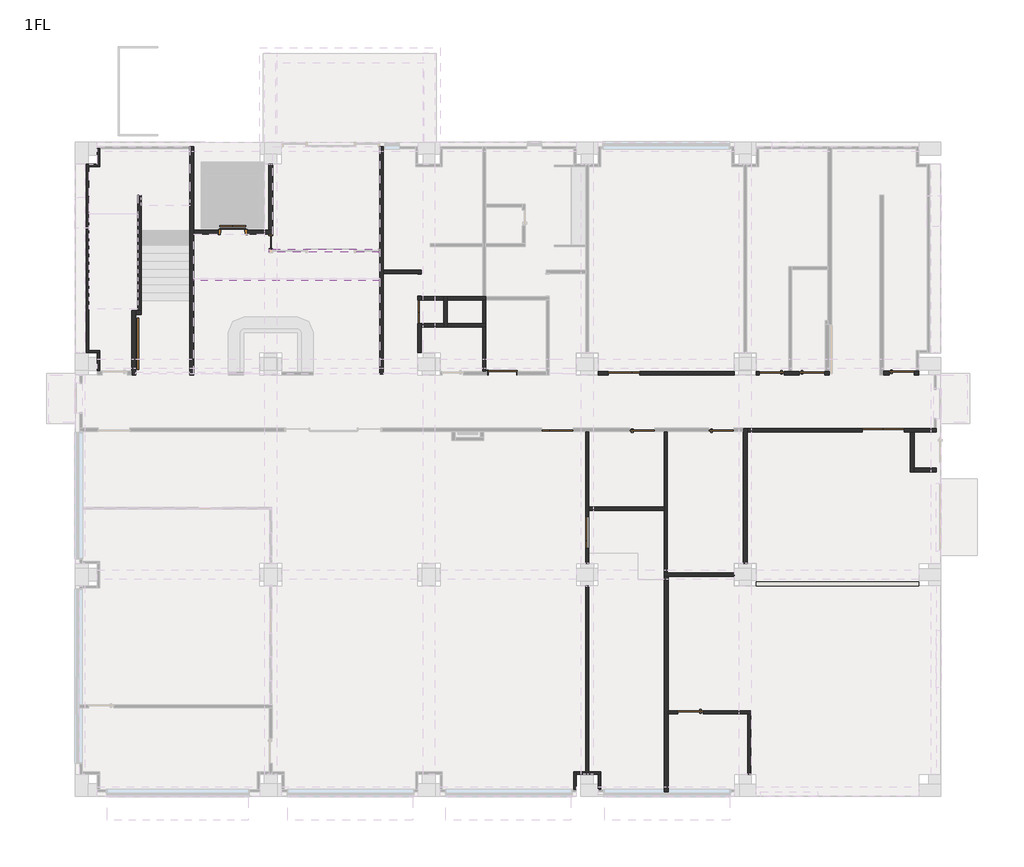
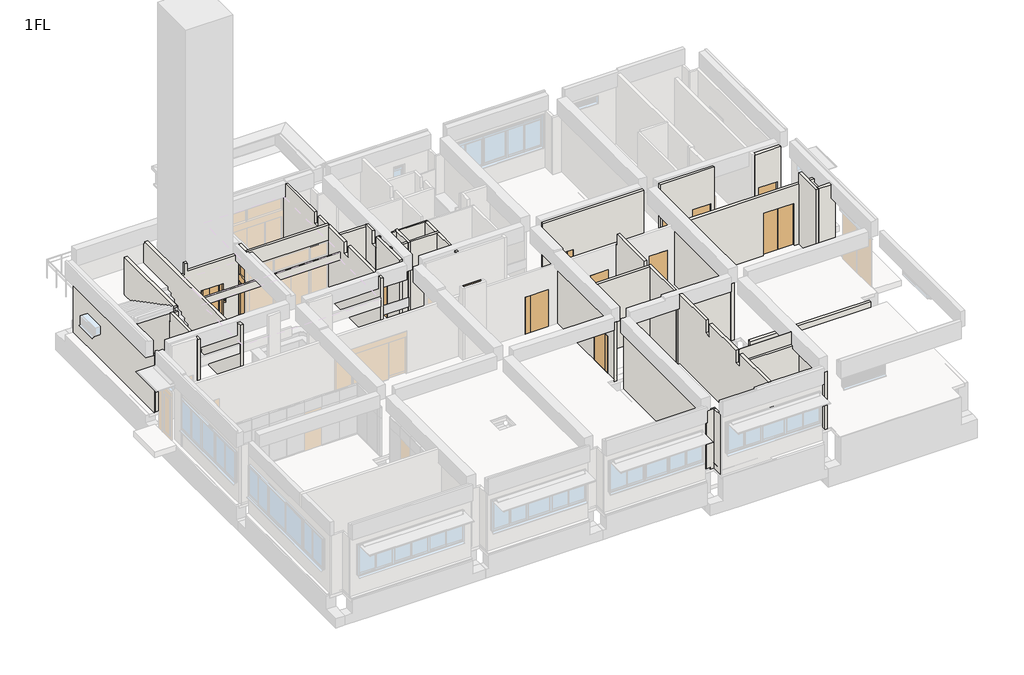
# One storey, part 2 of 7: 42 walls, 16 doors.
"""IFC4 building model written with IfcOpenShell, lengths in millimetres."""

from ifc_helpers import new_model, si_unit, frame, origin, origin_with_axes, place, context, project, spatial, polyline, outline, extrude, faceted_brep, transform, mapped, element, save
from components import door_0812e9ce, door_c34db0e4, door_7e7a0efd, door_18b0804b, door_c235f466, door_dd0264bc, door_f9cae23c, door_7458d189, door_9fa6e922, door_14d6dc4f, door_99cccb81, sd11_5945a8e4

model = new_model("IFC4")

# Units and contexts
model_context = context("Model", 3, world=origin())
ifc_project = project(units=[si_unit("LENGTHUNIT", "METRE", prefix="MILLI")], contexts=[model_context])

# Site, building, storey
site = spatial("IfcSite", under=ifc_project)
building = spatial("IfcBuilding", under=site)
storey = spatial("IfcBuildingStorey", under=building, Name="1FL", Elevation=0.0)

# Doors
placement = place(None, origin())
door_shape = door_0812e9ce(model_context)
element("IfcDoor", 1, ObjectType="営_片開き扉 : LD3 950*2000", at=placement, inside=storey, context=model_context, shape_type="MappedRepresentation", body=[
    mapped(door_shape, transform((26000.0, 15640.0, 0.0), x_axis=(-1.0, 0.0, 0.0), y_axis=(0.0, -1.0, 0.0), z_axis=(0.0, 0.0, 1.0))),
])
element("IfcDoor", 2, ObjectType="営_片開き扉 : LD3 950*2000", at=placement, inside=storey, context=model_context, shape_type="MappedRepresentation", body=[
    mapped(door_shape, transform((21085.0, 13500.0, 0.0), x_axis=(1.0, 0.0, 0.0), y_axis=(0.0, 1.0, 0.0), z_axis=(0.0, 0.0, 1.0))),
])
element("IfcDoor", 3, ObjectType="営_片開き扉 : LD3 950*2000", at=placement, inside=storey, context=model_context, shape_type="MappedRepresentation", body=[
    mapped(door_shape, transform((24085.0, 13500.0, 0.0), x_axis=(1.0, 0.0, 0.0), y_axis=(0.0, 1.0, 0.0), z_axis=(0.0, 0.0, 1.0))),
])
door_2_shape = door_c34db0e4(model_context)
element("IfcDoor", 4, ObjectType="営_片開き扉 : LD3 950*2000", at=placement, inside=storey, context=model_context, shape_type="MappedRepresentation", body=[
    mapped(door_2_shape, transform((30925.0, 15655.0, 0.0), x_axis=(1.0, 0.0, 0.0), y_axis=(0.0, 1.0, 0.0), z_axis=(0.0, 0.0, 1.0))),
])
door_3_shape = door_7e7a0efd(model_context)
element("IfcDoor", 5, ObjectType="営_片開き扉 : LD3 950*2000", at=placement, inside=storey, context=model_context, shape_type="MappedRepresentation", body=[
    mapped(door_3_shape, transform((27530.0, 15640.0, 0.0), x_axis=(1.0, 0.0, 0.0), y_axis=(0.0, 1.0, 0.0), z_axis=(0.0, 0.0, 1.0))),
])
element("IfcDoor", 6, ObjectType="営_片開き扉 : SD4b 950*2000", at=placement, inside=storey, context=model_context, shape_type="MappedRepresentation", body=[
    mapped(door_shape, transform((22920.0, 2778.3416571, 0.0), x_axis=(-1.0, 0.0, 0.0), y_axis=(0.0, -1.0, 0.0), z_axis=(0.0, 0.0, 1.0))),
])
door_4_shape = door_18b0804b(model_context)
element("IfcDoor", 7, ObjectType="営_親子扉 : LD2 1200*2000", at=placement, inside=storey, context=model_context, shape_type="MappedRepresentation", body=[
    mapped(door_4_shape, transform((19000.0, 9600.0, 0.0), x_axis=(0.0, 1.0, 0.0), y_axis=(-1.0, 0.0, 0.0), z_axis=(0.0, 0.0, 1.0))),
])
door_5_shape = door_c235f466(model_context)
element("IfcDoor", 8, ObjectType="営_親子扉 : LD2 1200*2000", at=placement, inside=storey, context=model_context, shape_type="MappedRepresentation", body=[
    mapped(door_5_shape, transform((17875.0, 13500.0, 0.0), x_axis=(1.0, 0.0, 0.0), y_axis=(0.0, 1.0, 0.0), z_axis=(0.0, 0.0, 1.0))),
])
element("IfcDoor", 9, ObjectType="営_親子扉 : LD2 1200*2000", at=placement, inside=storey, context=model_context, shape_type="MappedRepresentation", body=[
    mapped(door_5_shape, transform((20400.0, 15640.0, 0.0), x_axis=(-1.0, 0.0, 0.0), y_axis=(0.0, -1.0, 0.0), z_axis=(0.0, 0.0, 1.0))),
])
door_6_shape = door_dd0264bc(model_context)
element("IfcDoor", 10, ObjectType="営_両開き扉 : SD3a 1600*2300", at=placement, inside=storey, context=model_context, shape_type="MappedRepresentation", body=[
    mapped(door_6_shape, transform((30235.0, 13480.0, 0.0), x_axis=(1.0, 0.0, 0.0), y_axis=(0.0, 1.0, 0.0), z_axis=(0.0, 0.0, 1.0))),
])
door_7_shape = door_f9cae23c(model_context)
element("IfcDoor", 11, ObjectType="営_両開き扉 : LD5 900*2000", at=placement, inside=storey, context=model_context, shape_type="MappedRepresentation", body=[
    mapped(door_7_shape, transform((12640.0, 17975.0, 0.0), x_axis=(0.0, 1.0, 0.0), y_axis=(-1.0, 0.0, 0.0), z_axis=(0.0, 0.0, 1.0))),
])
door_8_shape = door_7458d189(model_context)
element("IfcDoor", 12, ObjectType="営_引戸／引込戸 : LD1 960*2000", at=placement, inside=storey, context=model_context, shape_type="MappedRepresentation", body=[
    mapped(door_8_shape, transform((15800.0, 15640.0, 0.0), x_axis=(1.0, 0.0, 0.0), y_axis=(0.0, 1.0, 0.0), z_axis=(0.0, 0.0, 1.0))),
])
door_9_shape = door_9fa6e922(model_context)
element("IfcDoor", 13, ObjectType="営_EVドア : EVドア", at=placement, inside=storey, context=model_context, shape_type="MappedRepresentation", body=[
    mapped(door_9_shape, transform((5560.0, 21000.0, 0.0), x_axis=(1.0, 0.0, 0.0), y_axis=(0.0, 1.0, 0.0), z_axis=(0.0, 0.0, 1.0))),
])
door_10_shape = door_14d6dc4f(model_context)
element("IfcDoor", 14, ObjectType="営_三方枠 : S1_850*2000", at=placement, inside=storey, context=model_context, shape_type="MappedRepresentation", body=[
    mapped(door_10_shape, transform((12640.0, 18990.25, 0.0), x_axis=(0.0, 1.0, 0.0), y_axis=(-1.0, 0.0, 0.0), z_axis=(0.0, 0.0, 1.0))),
])
door_11_shape = door_99cccb81(model_context)
element("IfcDoor", 15, ObjectType="営_自動ドア 両引き+ランマ1c : SSD1c 495*3050", at=placement, inside=storey, context=model_context, shape_type="MappedRepresentation", body=[
    mapped(door_11_shape, transform((7010.0, 20617.5, 0.0), x_axis=(0.0, -1.0, 0.0), y_axis=(1.0, 0.0, 0.0), z_axis=(0.0, 0.0, 1.0))),
])
sd11_shape = sd11_5945a8e4(model_context)
element("IfcDoor", 16, ObjectType="営_随閉扉 A階段 1F : SD11", at=placement, inside=storey, context=model_context, shape_type="MappedRepresentation", body=[
    mapped(sd11_shape, transform((1800.0, 16755.0, 0.0), x_axis=(0.0, -1.0, 0.0), y_axis=(1.0, 0.0, 0.0), z_axis=(0.0, 0.0, 1.0))),
])

# Walls
element("IfcWall", 17, ObjectType="(内壁)150_RC", at=placement, inside=storey, context=model_context, shape_type="Brep", body=[
    faceted_brep([(21925.0, 7925.0, 0.0), (24580.0, 7925.0, 0.0), (24580.0, 7925.0, 3150.0), (22075.0, 7925.0, 3150.0), (21925.0, 7925.0, 3150.0), (24580.0, 8075.0, 0.0), (22040.0, 8075.0, 0.0), (21925.0, 8075.0, 0.0), (21925.0, 8075.0, 3150.0), (22040.0, 8075.0, 3150.0), (24580.0, 8075.0, 3150.0)], [[[0, 1, 2, 3, 4]], [[5, 6, 7, 8, 9, 10]], [[0, 7, 6, 5, 1]], [[7, 0, 4, 8]], [[1, 5, 10, 2]], [[4, 3, 2, 10, 9, 8]]]),
])
element("IfcWall", 18, ObjectType="(内壁)150_RC", at=placement, inside=storey, context=model_context, shape_type="Brep", body=[
    faceted_brep([(25075.0, 8420.0, 0.0), (25075.0, 13405.0, 0.0), (25075.0, 13555.0, 0.0), (25075.0, 13555.0, 3100.0), (25075.0, 13405.0, 3100.0), (25075.0, 8420.0, 3100.0), (24925.0, 13555.0, 0.0), (24925.0, 13440.0, 0.0), (24925.0, 8420.0, 0.0), (24925.0, 8420.0, 3100.0), (24925.0, 13440.0, 3100.0), (24925.0, 13555.0, 3100.0)], [[[0, 1, 2, 3, 4, 5]], [[6, 7, 8, 9, 10, 11]], [[6, 2, 1, 0, 8, 7]], [[8, 0, 5, 9]], [[5, 4, 3, 11, 10, 9]], [[2, 6, 11, 3]]]),
])
element("IfcWall", 19, ObjectType="(内壁)150_RC", at=placement, inside=storey, context=model_context, shape_type="Brep", body=[
    faceted_brep([(25225.0, 13405.0, 3100.0), (25075.0, 13405.0, 3100.0), (25075.0, 13405.0, 0.0), (29435.0, 13405.0, 0.0), (29435.0, 13405.0, 2300.0), (31035.0, 13405.0, 2300.0), (31035.0, 13405.0, 0.0), (31260.0, 13405.0, 0.0), (31410.0, 13405.0, 0.0), (32250.0, 13405.0, 0.0), (32250.0, 13405.0, 3100.0), (32050.0, 13405.0, 3100.0), (32050.0, 13405.0, 3250.0), (25225.0, 13405.0, 3250.0), (25075.0, 13555.0, 3100.0), (25225.0, 13555.0, 3100.0), (25225.0, 13555.0, 3250.0), (32050.0, 13555.0, 3250.0), (32050.0, 13555.0, 3100.0), (32160.0, 13555.0, 3100.0), (32250.0, 13555.0, 3100.0), (32250.0, 13555.0, 0.0), (32160.0, 13555.0, 0.0), (31035.0, 13555.0, 0.0), (31035.0, 13555.0, 2300.0), (29435.0, 13555.0, 2300.0), (29435.0, 13555.0, 0.0), (25075.0, 13555.0, 0.0)], [[[0, 1, 2, 3, 4, 5, 6, 7, 8, 9, 10, 11, 12, 13]], [[14, 15, 16, 17, 18, 19, 20, 21, 22, 23, 24, 25, 26, 27]], [[2, 27, 26, 3]], [[21, 9, 8, 7, 6, 23, 22]], [[15, 0, 13, 16]], [[0, 15, 14, 1]], [[18, 11, 10, 20, 19]], [[11, 18, 17, 12]], [[26, 25, 4, 3]], [[24, 23, 6, 5]], [[25, 24, 5, 4]], [[27, 2, 1, 14]], [[13, 12, 17, 16]], [[9, 21, 20, 10]]]),
])
element("IfcWall", 20, ObjectType="(内壁)150_RC", at=placement, inside=storey, context=model_context, shape_type="Brep", body=[
    faceted_brep([(21925.0, 7925.0, -10.0), (21925.0, -250.0, -10.0), (21925.0, -250.0, 3150.0), (21925.0, -50.0, 3150.0), (21925.0, -50.0, 3940.0), (21925.0, 2485.0, 3940.0), (21925.0, 2485.0, 3250.0), (21925.0, 2835.0, 3250.0), (21925.0, 2835.0, 3940.0), (21925.0, 5155.0, 3940.0), (21925.0, 5155.0, 3250.0), (21925.0, 5505.0, 3250.0), (21925.0, 5505.0, 3940.0), (21925.0, 7825.0, 3940.0), (21925.0, 7825.0, 3150.0), (21925.0, 7925.0, 3150.0), (21925.0, 7925.0, 0.0), (22075.0, -250.0, -10.0), (22075.0, 7925.0, -10.0), (22075.0, 7925.0, 3150.0), (22075.0, 7825.0, 3150.0), (22075.0, 7825.0, 3940.0), (22075.0, 5505.0, 3940.0), (22075.0, 5505.0, 3250.0), (22075.0, 5155.0, 3250.0), (22075.0, 5155.0, 3940.0), (22075.0, 2838.3416571, 3940.0), (22075.0, 2835.0, 3940.0), (22075.0, 2835.0, 3250.0), (22075.0, 2718.3416571, 3250.0), (22075.0, 2485.0, 3250.0), (22075.0, 2485.0, 3940.0), (22075.0, -50.0, 3940.0), (22075.0, -50.0, 3150.0), (22075.0, -250.0, 3150.0)], [[[0, 1, 2, 3, 4, 5, 6, 7, 8, 9, 10, 11, 12, 13, 14, 15, 16]], [[17, 18, 19, 20, 21, 22, 23, 24, 25, 26, 27, 28, 29, 30, 31, 32, 33, 34]], [[1, 0, 18, 17]], [[8, 27, 26, 25, 9]], [[21, 13, 12, 22]], [[4, 32, 31, 5]], [[18, 0, 16, 15, 19]], [[1, 17, 34, 2]], [[33, 3, 2, 34]], [[3, 33, 32, 4]], [[14, 13, 21, 20]], [[15, 14, 20, 19]], [[30, 6, 5, 31]], [[6, 30, 29, 28, 7]], [[7, 28, 27, 8]], [[24, 10, 9, 25]], [[10, 24, 23, 11]], [[11, 23, 22, 12]]]),
])
element("IfcWall", 21, ObjectType="(内壁)150_RC", at=placement, inside=storey, context=model_context, shape_type="Brep", body=[
    faceted_brep([(30450.0, 15730.0, 2000.0), (30450.0, 15730.0, 0.0), (30255.0, 15730.0, 0.0), (30255.0, 15730.0, 3850.0), (31580.0, 15730.0, 3850.0), (31580.0, 15730.0, 3100.0), (31580.0, 15730.0, 0.0), (31490.0, 15730.0, 0.0), (31400.0, 15730.0, 0.0), (31400.0, 15730.0, 2000.0), (30450.0, 15580.0, 0.0), (30450.0, 15580.0, 2000.0), (31400.0, 15580.0, 2000.0), (31400.0, 15580.0, 0.0), (31580.0, 15580.0, 0.0), (31580.0, 15580.0, 3850.0), (30255.0, 15580.0, 3850.0), (30255.0, 15580.0, 0.0)], [[[0, 1, 2, 3, 4, 5, 6, 7, 8, 9]], [[10, 11, 12, 13, 14, 15, 16, 17]], [[1, 10, 17, 2]], [[13, 8, 7, 6, 14]], [[3, 16, 15, 4]], [[1, 0, 11, 10]], [[9, 8, 13, 12]], [[0, 9, 12, 11]], [[6, 5, 4, 15, 14]], [[3, 2, 17, 16]]]),
])
element("IfcWall", 22, ObjectType="(内壁)150_RC", at=placement, inside=storey, context=model_context, shape_type="Brep", body=[
    faceted_brep([(4075.0, 15580.0, 0.0), (4075.0, 20925.0, 0.0), (4075.0, 21075.0, 0.0), (4075.0, 24250.0, 0.0), (4075.0, 24250.0, 3150.0), (4075.0, 24050.0, 3150.0), (4075.0, 24050.0, 3250.0), (4075.0, 21075.0, 3250.0), (4075.0, 20925.0, 3250.0), (4075.0, 15825.0, 3250.0), (4075.0, 15825.0, 3850.0), (4075.0, 15580.0, 3850.0), (3925.0, 24250.0, 0.0), (3925.0, 24160.0, 0.0), (3925.0, 15580.0, 0.0), (3925.0, 15580.0, 3850.0), (3925.0, 15825.0, 3850.0), (3925.0, 15825.0, 3250.0), (3925.0, 24050.0, 3250.0), (3925.0, 24050.0, 3150.0), (3925.0, 24250.0, 3150.0), (3925.0, 24250.0, 3100.0)], [[[0, 1, 2, 3, 4, 5, 6, 7, 8, 9, 10, 11]], [[12, 13, 14, 15, 16, 17, 18, 19, 20, 21]], [[3, 2, 1, 0, 14, 13, 12]], [[15, 11, 10, 16]], [[0, 11, 15, 14]], [[5, 19, 18, 6]], [[5, 4, 20, 19]], [[17, 9, 8, 7, 6, 18]], [[9, 17, 16, 10]], [[3, 12, 21, 20, 4]]]),
])
element("IfcWall", 23, ObjectType="(内壁)150_RC", at=placement, inside=storey, context=model_context, shape_type="Brep", body=[
    faceted_brep([(7075.0, 20925.0, 3100.0), (6775.0, 20925.0, 3100.0), (6775.0, 20925.0, 3400.0), (4306.3, 20925.0, 3400.0), (4306.3, 20925.0, 3850.0), (4175.0, 20925.0, 3850.0), (4175.0, 20925.0, 3250.0), (4075.0, 20925.0, 3250.0), (4075.0, 20925.0, 0.0), (5000.0, 20925.0, 0.0), (5000.0, 20925.0, 2100.0), (6120.0, 20925.0, 2100.0), (6120.0, 20925.0, 0.0), (7075.0, 20925.0, 0.0), (6775.0, 21075.0, 3100.0), (6925.0, 21075.0, 3100.0), (7075.0, 21075.0, 3100.0), (7075.0, 21075.0, 0.0), (6925.0, 21075.0, 0.0), (6120.0, 21075.0, 0.0), (6120.0, 21075.0, 2100.0), (5000.0, 21075.0, 2100.0), (5000.0, 21075.0, 0.0), (4075.0, 21075.0, 0.0), (4075.0, 21075.0, 3250.0), (4175.0, 21075.0, 3250.0), (4175.0, 21075.0, 3850.0), (4306.3, 21075.0, 3850.0), (4306.3, 21075.0, 3400.0), (6775.0, 21075.0, 3400.0)], [[[0, 1, 2, 3, 4, 5, 6, 7, 8, 9, 10, 11, 12, 13]], [[14, 15, 16, 17, 18, 19, 20, 21, 22, 23, 24, 25, 26, 27, 28, 29]], [[8, 23, 22, 9]], [[17, 13, 12, 19, 18]], [[4, 27, 26, 5]], [[23, 8, 7, 24]], [[13, 17, 16, 0]], [[14, 1, 0, 16, 15]], [[1, 14, 29, 2]], [[22, 21, 10, 9]], [[20, 19, 12, 11]], [[21, 20, 11, 10]], [[3, 28, 27, 4]], [[28, 3, 2, 29]], [[25, 6, 5, 26]], [[6, 25, 24, 7]]]),
])
element("IfcWall", 24, ObjectType="(内壁)150_RC", at=placement, inside=storey, context=model_context, shape_type="SweptSolid", body=[
    extrude(outline(polyline([(7075.0, 21075.0), (6925.0, 21075.0), (6925.0, 23580.0), (7075.0, 23580.0), (7075.0, 21075.0)])), origin_with_axes(), (0.0, 0.0, 1.0), 3100.0),
])
element("IfcWall", 25, ObjectType="(内壁)W3", at=placement, inside=storey, context=model_context, shape_type="Brep", body=[
    faceted_brep([(11140.0, 20240.0, 3950.0), (6940.0, 20240.0, 3950.0), (6940.0, 20240.0, 3050.0), (11140.0, 20240.0, 3050.0), (6940.0, 20360.0, 3950.0), (7060.0, 20360.0, 3950.0), (11140.0, 20360.0, 3950.0), (11140.0, 20360.0, 3050.0), (6940.0, 20360.0, 3050.0)], [[[0, 1, 2, 3]], [[4, 5, 6, 7, 8]], [[1, 0, 6, 5, 4]], [[6, 0, 3, 7]], [[1, 4, 8, 2]], [[3, 2, 8, 7]]]),
])
element("IfcWall", 26, ObjectType="(内壁)W4", at=placement, inside=storey, context=model_context, shape_type="Brep", body=[
    faceted_brep([(11140.0, 24250.0, 0.0), (11140.0, 15615.0, 0.0), (11140.0, 15615.0, 2310.0), (11140.0, 15615.0, 2810.0), (11140.0, 15615.0, 3850.0), (11140.0, 15825.0, 3850.0), (11140.0, 15825.0, 3150.0), (11140.0, 16175.0, 3150.0), (11140.0, 16175.0, 3850.0), (11140.0, 18495.0, 3850.0), (11140.0, 18495.0, 3250.0), (11140.0, 18845.0, 3250.0), (11140.0, 18845.0, 3850.0), (11140.0, 21165.0, 3850.0), (11140.0, 21165.0, 3250.0), (11140.0, 21515.0, 3250.0), (11140.0, 21515.0, 3850.0), (11140.0, 24050.0, 3850.0), (11140.0, 24050.0, 3150.0), (11140.0, 24250.0, 3150.0), (11260.0, 15615.0, 0.0), (11260.0, 19430.0, 0.0), (11260.0, 19550.0, 0.0), (11260.0, 24160.0, 0.0), (11260.0, 24250.0, 0.0), (11260.0, 24250.0, 3100.0), (11260.0, 24250.0, 3150.0), (11260.0, 24050.0, 3150.0), (11260.0, 24050.0, 3850.0), (11260.0, 21515.0, 3850.0), (11260.0, 21515.0, 3250.0), (11260.0, 21165.0, 3250.0), (11260.0, 21165.0, 3850.0), (11260.0, 19550.0, 3850.0), (11260.0, 19430.0, 3850.0), (11260.0, 18845.0, 3850.0), (11260.0, 18845.0, 3250.0), (11260.0, 18495.0, 3250.0), (11260.0, 18495.0, 3850.0), (11260.0, 16175.0, 3850.0), (11260.0, 16175.0, 3150.0), (11260.0, 15825.0, 3150.0), (11260.0, 15825.0, 3850.0), (11260.0, 15615.0, 3850.0), (11200.0, 15825.0, 3850.0), (11200.0, 16175.0, 3850.0), (11200.0, 18495.0, 3850.0), (11200.0, 24050.0, 3850.0), (11200.0, 21515.0, 3850.0), (11200.0, 18845.0, 3850.0), (11200.0, 21165.0, 3850.0)], [[[0, 1, 2, 3, 4, 5, 6, 7, 8, 9, 10, 11, 12, 13, 14, 15, 16, 17, 18, 19]], [[20, 21, 22, 23, 24, 25, 26, 27, 28, 29, 30, 31, 32, 33, 34, 35, 36, 37, 38, 39, 40, 41, 42, 43]], [[1, 0, 24, 23, 22, 21, 20]], [[5, 4, 43, 42, 44]], [[8, 45, 39, 38, 46, 9]], [[28, 47, 17, 16, 48, 29]], [[12, 49, 35, 34, 33, 32, 50, 13]], [[24, 0, 19, 26, 25]], [[41, 6, 5, 44, 42]], [[6, 41, 40, 7]], [[7, 40, 39, 45, 8]], [[18, 17, 47, 28, 27]], [[19, 18, 27, 26]], [[37, 10, 9, 46, 38]], [[10, 37, 36, 11]], [[11, 36, 35, 49, 12]], [[31, 14, 13, 50, 32]], [[14, 31, 30, 15]], [[15, 30, 29, 48, 16]], [[4, 3, 2, 1, 20, 43]]]),
])
element("IfcWall", 27, ObjectType="(内壁)150_RC", at=placement, inside=storey, context=model_context, shape_type="Brep", body=[
    faceted_brep([(1875.0, 15580.0, 0.0), (1875.0, 17880.0, 0.0), (1875.0, 18030.0, 0.0), (1875.0, 18030.0, 3400.0), (1875.0, 17975.0, 3400.0), (1875.0, 17975.0, 3850.0), (1875.0, 17880.0, 3850.0), (1875.0, 16175.0, 3850.0), (1875.0, 16175.0, 3150.0), (1875.0, 15825.0, 3150.0), (1875.0, 15825.0, 3850.0), (1875.0, 15580.0, 3850.0), (1725.0, 18030.0, 0.0), (1725.0, 15730.0, 0.0), (1725.0, 15580.0, 0.0), (1725.0, 15580.0, 3850.0), (1725.0, 15825.0, 3850.0), (1725.0, 15825.0, 3150.0), (1725.0, 16175.0, 3150.0), (1725.0, 16175.0, 3850.0), (1725.0, 17975.0, 3850.0), (1725.0, 17975.0, 3400.0), (1725.0, 18030.0, 3400.0)], [[[0, 1, 2, 3, 4, 5, 6, 7, 8, 9, 10, 11]], [[12, 13, 14, 15, 16, 17, 18, 19, 20, 21, 22]], [[2, 1, 0, 14, 13, 12]], [[11, 10, 16, 15]], [[19, 7, 6, 5, 20]], [[2, 12, 22, 3]], [[9, 17, 16, 10]], [[17, 9, 8, 18]], [[18, 8, 7, 19]], [[0, 11, 15, 14]], [[4, 21, 20, 5]], [[21, 4, 3, 22]]]),
])
element("IfcWall", 28, ObjectType="(内壁)150_RC", at=placement, inside=storey, context=model_context, shape_type="Brep", body=[
    faceted_brep([(1875.0, 17880.0, 0.0), (2095.0, 17880.0, 0.0), (2095.0, 17880.0, 3850.0), (1875.0, 17880.0, 3850.0), (2095.0, 18030.0, 0.0), (1945.0, 18030.0, 0.0), (1875.0, 18030.0, 0.0), (1875.0, 18030.0, 3400.0), (1945.0, 18030.0, 3400.0), (2095.0, 18030.0, 3400.0), (2095.0, 17975.0, 3850.0), (1875.0, 17975.0, 3850.0), (1875.0, 17975.0, 3400.0), (2095.0, 17975.0, 3400.0)], [[[0, 1, 2, 3]], [[4, 5, 6, 7, 8, 9]], [[1, 0, 6, 5, 4]], [[3, 2, 10, 11]], [[0, 3, 11, 12, 7, 6]], [[2, 1, 4, 9, 13, 10]], [[13, 12, 11, 10]], [[12, 13, 9, 8, 7]]]),
])
element("IfcWall", 29, ObjectType="(内壁)150_RC", at=placement, inside=storey, context=model_context, shape_type="Brep", body=[
    faceted_brep([(2095.0, 18030.0, 0.0), (2095.0, 22410.0, 0.0), (2095.0, 22410.0, 4100.0), (2095.0, 18030.0, 4100.0), (2095.0, 18030.0, 4000.0), (2095.0, 18225.0, 4000.0), (2095.0, 18225.0, 3940.0), (2095.0, 18225.0, 3400.0), (2095.0, 18030.0, 3400.0), (1945.0, 22410.0, 0.0), (1945.0, 18030.0, 0.0), (1945.0, 18030.0, 3400.0), (1945.0, 18225.0, 3400.0), (1945.0, 18225.0, 4000.0), (1945.0, 18100.0, 4000.0), (1945.0, 18030.0, 4000.0), (1945.0, 18030.0, 4100.0), (1945.0, 22410.0, 4100.0)], [[[0, 1, 2, 3, 4, 5, 6, 7, 8]], [[9, 10, 11, 12, 13, 14, 15, 16, 17]], [[1, 0, 10, 9]], [[2, 1, 9, 17]], [[3, 2, 17, 16]], [[3, 16, 15, 4]], [[10, 0, 8, 11]], [[7, 12, 11, 8]], [[12, 7, 6, 5, 13]], [[13, 5, 4, 15, 14]]]),
])
element("IfcWall", 30, ObjectType="(内壁)W3", at=placement, inside=storey, context=model_context, shape_type="Brep", body=[
    faceted_brep([(18940.0, 13440.0, 3100.0), (18940.0, 13440.0, -100.0), (18940.0, 8420.0, -100.0), (18940.0, 8420.0, 3100.0), (18940.0, 9000.0, 2000.0), (18940.0, 9000.0, 0.0), (18940.0, 10200.0, 0.0), (18940.0, 10200.0, 2000.0), (19060.0, 13440.0, -100.0), (19060.0, 13440.0, 3100.0), (19060.0, 10560.0, 3100.0), (19060.0, 10440.0, 3100.0), (19060.0, 8420.0, 3100.0), (19060.0, 8420.0, -100.0), (19060.0, 9000.0, 0.0), (19060.0, 9000.0, 2000.0), (19060.0, 10200.0, 2000.0), (19060.0, 10200.0, 0.0)], [[[0, 1, 2, 3], [4, 5, 6, 7]], [[8, 9, 10, 11, 12, 13], [14, 15, 16, 17]], [[1, 8, 13, 2]], [[8, 1, 0, 9]], [[5, 4, 15, 14]], [[6, 5, 14, 17]], [[7, 6, 17, 16]], [[4, 7, 16, 15]], [[2, 13, 12, 3]], [[0, 3, 12, 11, 10, 9]]]),
    faceted_brep([(18940.0, 420.0, 3100.0), (18940.0, 510.0, 3100.0), (18940.0, 7580.0, 3100.0), (18940.0, 7580.0, 0.0), (18940.0, 510.0, 0.0), (18940.0, 420.0, 0.0), (19060.0, 7580.0, 3100.0), (19060.0, 510.0, 3100.0), (19060.0, 420.0, 3100.0), (19060.0, 420.0, 0.0), (19060.0, 510.0, 0.0), (19060.0, 7580.0, 0.0)], [[[0, 1, 2, 3, 4, 5]], [[6, 7, 8, 9, 10, 11]], [[8, 0, 5, 9]], [[2, 6, 11, 3]], [[2, 1, 0, 8, 7, 6]], [[5, 4, 3, 11, 10, 9]]]),
])
element("IfcWall", 31, ObjectType="(内壁)W3", at=placement, inside=storey, context=model_context, shape_type="SweptSolid", body=[
    extrude(outline(polyline([(0.0, 19060.0), (0.0, 21920.0), (3850.0, 21920.0), (3850.0, 19225.0), (3100.0, 19225.0), (3100.0, 19060.0), (0.0, 19060.0)])), frame((0.0, 10440.0, 0.0), z_axis=(0.0, 1.0, 0.0), x_axis=(0.0, 0.0, 1.0)), (0.0, 0.0, 1.0), 120.0),
])
element("IfcWall", 32, ObjectType="(内壁)W3", at=placement, inside=storey, context=model_context, shape_type="Brep", body=[
    faceted_brep([(21920.0, 13440.0, 0.0), (21920.0, 10560.0, 0.0), (21920.0, 10440.0, 0.0), (21920.0, 8075.0, 0.0), (21920.0, 8075.0, 3150.0), (21920.0, 8175.0, 3150.0), (21920.0, 8175.0, 3850.0), (21920.0, 10440.0, 3850.0), (21920.0, 10560.0, 3850.0), (21920.0, 10575.0, 3850.0), (21920.0, 10575.0, 3250.0), (21920.0, 10925.0, 3250.0), (21920.0, 10925.0, 3850.0), (21920.0, 13325.0, 3850.0), (21920.0, 13325.0, 3250.0), (21920.0, 13440.0, 3250.0), (22040.0, 8075.0, 0.0), (22040.0, 13440.0, 0.0), (22040.0, 13440.0, 3250.0), (22040.0, 13325.0, 3250.0), (22040.0, 13325.0, 3850.0), (22040.0, 10925.0, 3850.0), (22040.0, 10925.0, 3250.0), (22040.0, 10575.0, 3250.0), (22040.0, 10575.0, 3850.0), (22040.0, 8175.0, 3850.0), (22040.0, 8175.0, 3150.0), (22040.0, 8075.0, 3150.0), (21925.0, 8075.0, 0.0), (21925.0, 8075.0, 3150.0)], [[[0, 1, 2, 3, 4, 5, 6, 7, 8, 9, 10, 11, 12, 13, 14, 15]], [[16, 17, 18, 19, 20, 21, 22, 23, 24, 25, 26, 27]], [[3, 2, 1, 0, 17, 16, 28]], [[6, 25, 24, 9, 8, 7]], [[12, 21, 20, 13]], [[17, 0, 15, 18]], [[3, 28, 16, 27, 29, 4]], [[26, 5, 4, 29, 27]], [[5, 26, 25, 6]], [[23, 10, 9, 24]], [[10, 23, 22, 11]], [[11, 22, 21, 12]], [[19, 14, 13, 20]], [[14, 19, 18, 15]]]),
])
element("IfcWall", 33, ObjectType="(内壁)W3", at=placement, inside=storey, context=model_context, shape_type="Brep", body=[
    faceted_brep([(23395.0, 2718.3416571, 2000.0), (23395.0, 2718.3416571, 0.0), (25091.4048652, 2718.3416571, 0.0), (25211.4048652, 2718.3416571, 0.0), (25211.4048652, 2718.3416571, 3100.0), (25091.4048652, 2718.3416571, 3100.0), (24775.0, 2718.3416571, 3100.0), (24775.0, 2718.3416571, 3250.0), (22075.0, 2718.3416571, 3250.0), (22075.0, 2718.3416571, 0.0), (22445.0, 2718.3416571, 0.0), (22445.0, 2718.3416571, 2000.0), (22075.0, 2838.3416571, 0.0), (22075.0, 2838.3416571, 3940.0), (24775.0, 2838.3416571, 3940.0), (24775.0, 2838.3416571, 3100.0), (25211.4048652, 2838.3416571, 3100.0), (25211.4048652, 2838.3416571, 0.0), (23395.0, 2838.3416571, 0.0), (23395.0, 2838.3416571, 2000.0), (22445.0, 2838.3416571, 2000.0), (22445.0, 2838.3416571, 0.0), (22075.0, 2835.0, 3940.0), (24775.0, 2835.0, 3940.0), (22075.0, 2835.0, 3250.0), (24775.0, 2835.0, 3250.0)], [[[0, 1, 2, 3, 4, 5, 6, 7, 8, 9, 10, 11]], [[12, 13, 14, 15, 16, 17, 18, 19, 20, 21]], [[9, 12, 21, 10]], [[17, 3, 2, 1, 18]], [[14, 13, 22, 23]], [[13, 12, 9, 8, 24, 22]], [[3, 17, 16, 4]], [[1, 0, 19, 18]], [[11, 10, 21, 20]], [[0, 11, 20, 19]], [[15, 6, 5, 4, 16]], [[6, 15, 14, 23, 25, 7]], [[25, 24, 8, 7]], [[24, 25, 23, 22]]]),
])
element("IfcWall", 34, ObjectType="(内壁)W3", at=placement, inside=storey, context=model_context, shape_type="SweptSolid", body=[
    extrude(outline(polyline([(25091.4048652, 2718.3416571), (25211.4048652, 2718.3416571), (25211.4048652, 420.0), (25091.4048652, 420.0), (25091.4048652, 2718.3416571)])), origin_with_axes(), (0.0, 0.0, 1.0), 3100.0),
])
element("IfcWall", 35, ObjectType="(内壁)W4", at=placement, inside=storey, context=model_context, shape_type="Brep", body=[
    faceted_brep([(12700.0, 17525.0, 0.0), (12700.0, 17525.0, 2000.0), (12700.0, 18425.0, 2000.0), (12700.0, 18425.0, 0.0), (12700.0, 18430.0, 0.0), (12700.0, 18550.0, 0.0), (12700.0, 18550.0, 3250.0), (12700.0, 18495.0, 3250.0), (12700.0, 18495.0, 3850.0), (12700.0, 18430.0, 3850.0), (12700.0, 17520.0, 3850.0), (12700.0, 17400.0, 3850.0), (12700.0, 16420.0, 3850.0), (12700.0, 16420.0, 0.0), (12700.0, 17400.0, 0.0), (12700.0, 17520.0, 0.0), (12580.0, 17525.0, 2000.0), (12580.0, 17525.0, 0.0), (12580.0, 16420.0, 0.0), (12580.0, 16420.0, 3850.0), (12580.0, 18495.0, 3850.0), (12580.0, 18495.0, 3250.0), (12580.0, 18550.0, 3250.0), (12580.0, 18550.0, 0.0), (12580.0, 18425.0, 0.0), (12580.0, 18425.0, 2000.0)], [[[0, 1, 2, 3, 4, 5, 6, 7, 8, 9, 10, 11, 12, 13, 14, 15]], [[16, 17, 18, 19, 20, 21, 22, 23, 24, 25]], [[17, 0, 15, 14, 13, 18]], [[23, 5, 4, 3, 24]], [[19, 12, 11, 10, 9, 8, 20]], [[5, 23, 22, 6]], [[17, 16, 1, 0]], [[25, 24, 3, 2]], [[16, 25, 2, 1]], [[13, 12, 19, 18]], [[7, 21, 20, 8]], [[21, 7, 6, 22]]]),
])
element("IfcWall", 36, ObjectType="(内壁)W4", at=placement, inside=storey, context=model_context, shape_type="Brep", body=[
    faceted_brep([(12700.0, 18430.0, 0.0), (13570.0, 18430.0, 0.0), (13570.0, 18430.0, 3850.0), (13225.0, 18430.0, 3850.0), (13225.0, 18430.0, 3100.0), (12775.0, 18430.0, 3100.0), (12775.0, 18430.0, 3850.0), (12700.0, 18430.0, 3850.0), (13570.0, 18550.0, 0.0), (12700.0, 18550.0, 0.0), (12700.0, 18550.0, 3250.0), (12775.0, 18550.0, 3250.0), (12775.0, 18550.0, 3100.0), (13225.0, 18550.0, 3100.0), (13225.0, 18550.0, 3250.0), (13570.0, 18550.0, 3250.0), (12775.0, 18495.0, 3850.0), (12700.0, 18495.0, 3850.0), (13225.0, 18495.0, 3850.0), (13570.0, 18495.0, 3850.0), (12700.0, 18495.0, 3250.0), (13225.0, 18495.0, 3250.0), (12775.0, 18495.0, 3250.0), (13570.0, 18495.0, 3250.0)], [[[0, 1, 2, 3, 4, 5, 6, 7]], [[8, 9, 10, 11, 12, 13, 14, 15]], [[1, 0, 9, 8]], [[6, 16, 17, 7]], [[18, 3, 2, 19]], [[0, 7, 17, 20, 10, 9]], [[13, 4, 3, 18, 21, 14]], [[4, 13, 12, 5]], [[5, 12, 11, 22, 16, 6]], [[18, 19, 23, 21]], [[15, 14, 21, 23]], [[22, 20, 17, 16]], [[20, 22, 11, 10]], [[2, 1, 8, 15, 23, 19]]]),
])
element("IfcWall", 37, ObjectType="(内壁)W4", at=placement, inside=storey, context=model_context, shape_type="SweptSolid", body=[
    extrude(outline(polyline([(0.0, 12700.0), (0.0, 13570.0), (3850.0, 13570.0), (3850.0, 13225.0), (3100.0, 13225.0), (3100.0, 12775.0), (3850.0, 12775.0), (3850.0, 12700.0), (0.0, 12700.0)])), frame((0.0, 17400.0, 0.0), z_axis=(0.0, 1.0, 0.0), x_axis=(0.0, 0.0, 1.0)), (0.0, 0.0, 1.0), 120.0),
])
element("IfcWall", 38, ObjectType="(内壁)W1", at=placement, inside=storey, context=model_context, shape_type="Brep", body=[
    faceted_brep([(13690.0, 17400.0, 0.0), (13690.0, 17520.0, 0.0), (13690.0, 18430.0, 0.0), (13690.0, 18550.0, 0.0), (13690.0, 18550.0, 3250.0), (13690.0, 18550.0, 3850.0), (13690.0, 18495.0, 3850.0), (13690.0, 18430.0, 3850.0), (13690.0, 17520.0, 3850.0), (13690.0, 17400.0, 3850.0), (13570.0, 17400.0, 0.0), (13570.0, 17400.0, 3850.0), (13570.0, 17520.0, 3850.0), (13570.0, 18430.0, 3850.0), (13570.0, 18495.0, 3850.0), (13570.0, 18550.0, 3850.0), (13570.0, 18550.0, 3250.0), (13570.0, 18550.0, 0.0), (13570.0, 18430.0, 0.0), (13570.0, 17520.0, 0.0)], [[[0, 1, 2, 3, 4, 5, 6, 7, 8, 9]], [[10, 11, 12, 13, 14, 15, 16, 17, 18, 19]], [[3, 2, 1, 0, 10, 19, 18, 17]], [[9, 8, 7, 6, 5, 15, 14, 13, 12, 11]], [[0, 9, 11, 10]], [[5, 4, 3, 17, 16, 15]]]),
])
element("IfcWall", 39, ObjectType="(内壁)W4", at=placement, inside=storey, context=model_context, shape_type="Brep", body=[
    faceted_brep([(11260.0, 19430.0, 0.0), (12580.0, 19430.0, 0.0), (12700.0, 19430.0, 0.0), (12700.0, 19430.0, 3850.0), (11260.0, 19430.0, 3850.0), (11260.0, 19550.0, 0.0), (11260.0, 19550.0, 3850.0), (12700.0, 19550.0, 3850.0), (12700.0, 19550.0, 0.0)], [[[0, 1, 2, 3, 4]], [[5, 6, 7, 8]], [[2, 1, 0, 5, 8]], [[4, 3, 7, 6]], [[0, 4, 6, 5]], [[3, 2, 8, 7]]]),
])
element("IfcWall", 40, ObjectType="(内壁)150_RC", at=placement, inside=storey, context=model_context, shape_type="Brep", body=[
    faceted_brep([(31260.0, 13405.0, 0.0), (31260.0, 11905.0, 0.0), (31260.0, 11905.0, 3850.0), (31260.0, 13405.0, 3850.0), (31410.0, 13405.0, 0.0), (31410.0, 13405.0, 3850.0), (31410.0, 12055.0, 3850.0), (31410.0, 11905.0, 3850.0), (31410.0, 11905.0, 0.0), (31410.0, 12055.0, 0.0)], [[[0, 1, 2, 3]], [[4, 5, 6, 7, 8, 9]], [[1, 0, 4, 9, 8]], [[3, 2, 7, 6, 5]], [[2, 1, 8, 7]], [[0, 3, 5, 4]]]),
])
element("IfcWall", 41, ObjectType="(内壁)150_RC", at=placement, inside=storey, context=model_context, shape_type="SweptSolid", body=[
    extrude(outline(polyline([(0.0, 31410.0), (0.0, 32250.0), (3100.0, 32250.0), (3100.0, 32050.0), (3850.0, 32050.0), (3850.0, 31410.0), (0.0, 31410.0)])), frame((0.0, 11905.0, 0.0), z_axis=(0.0, 1.0, 0.0), x_axis=(0.0, 0.0, 1.0)), (0.0, 0.0, 1.0), 150.0),
])
element("IfcWall", 42, ObjectType="(内壁)150_H300立ち上がり", at=placement, inside=storey, context=model_context, shape_type="SweptSolid", body=[
    extrude(outline(polyline([(31580.0, 7580.0), (25420.0, 7580.0), (25420.0, 7730.0), (31580.0, 7730.0), (31580.0, 7580.0)])), frame((0.0, 0.0, -10.0), z_axis=(0.0, 0.0, 1.0), x_axis=(1.0, 0.0, 0.0)), (0.0, 0.0, 1.0), 310.0),
])
element("IfcWall", 43, ObjectType="(内壁)120_部屋境界OFF", at=placement, inside=storey, context=model_context, shape_type="Brep", body=[
    faceted_brep([(12700.0, 19430.0, 0.0), (12700.0, 19430.0, 3850.0), (12700.0, 19430.0, 3950.0), (12700.0, 18845.0, 3950.0), (12700.0, 18845.0, 3250.0), (12700.0, 18550.0, 3250.0), (12700.0, 18550.0, 0.0), (12700.0, 18555.25, 0.0), (12700.0, 18555.25, 2010.0), (12700.0, 19425.25, 2010.0), (12700.0, 19425.25, 0.0), (12580.0, 19430.0, 3950.0), (12580.0, 19430.0, 0.0), (12580.0, 19425.25, 0.0), (12580.0, 19425.25, 2010.0), (12580.0, 18555.25, 2010.0), (12580.0, 18555.25, 0.0), (12580.0, 18550.0, 0.0), (12580.0, 18550.0, 3250.0), (12580.0, 18845.0, 3250.0), (12580.0, 18845.0, 3950.0)], [[[0, 1, 2, 3, 4, 5, 6, 7, 8, 9, 10]], [[11, 12, 13, 14, 15, 16, 17, 18, 19, 20]], [[6, 17, 16, 7]], [[12, 0, 10, 13]], [[2, 11, 20, 3]], [[17, 6, 5, 18]], [[2, 1, 0, 12, 11]], [[16, 15, 8, 7]], [[14, 13, 10, 9]], [[15, 14, 9, 8]], [[4, 19, 18, 5]], [[19, 4, 3, 20]]]),
])
element("IfcWall", 44, ObjectType="(内壁)W3", at=placement, inside=storey, context=model_context, shape_type="Brep", body=[
    faceted_brep([(21000.0, 15700.0, 2000.0), (19800.0, 15700.0, 2000.0), (19800.0, 15700.0, 0.0), (19420.0, 15700.0, 0.0), (19420.0, 15700.0, 3940.0), (24580.0, 15700.0, 3940.0), (24580.0, 15700.0, 0.0), (21000.0, 15700.0, 0.0), (19800.0, 15580.0, 2000.0), (21000.0, 15580.0, 2000.0), (21000.0, 15580.0, 0.0), (24580.0, 15580.0, 0.0), (24580.0, 15580.0, 3940.0), (19420.0, 15580.0, 3940.0), (19420.0, 15580.0, 0.0), (19800.0, 15580.0, 0.0)], [[[0, 1, 2, 3, 4, 5, 6, 7]], [[8, 9, 10, 11, 12, 13, 14, 15]], [[2, 15, 14, 3]], [[10, 7, 6, 11]], [[4, 13, 12, 5]], [[9, 8, 1, 0]], [[8, 15, 2, 1]], [[10, 9, 0, 7]], [[4, 3, 14, 13]], [[6, 5, 12, 11]]]),
    faceted_brep([(26475.0, 15700.0, 2000.0), (25525.0, 15700.0, 2000.0), (25525.0, 15700.0, 0.0), (25420.0, 15700.0, 0.0), (25420.0, 15700.0, 3940.0), (28175.0, 15700.0, 3940.0), (28175.0, 15700.0, 3850.0), (28175.0, 15700.0, 0.0), (28025.0, 15700.0, 0.0), (28005.0, 15700.0, 0.0), (28005.0, 15700.0, 2000.0), (27055.0, 15700.0, 2000.0), (27055.0, 15700.0, 0.0), (26760.0, 15700.0, 0.0), (26640.0, 15700.0, 0.0), (26475.0, 15700.0, 0.0), (25525.0, 15580.0, 2000.0), (26475.0, 15580.0, 2000.0), (26475.0, 15580.0, 0.0), (27055.0, 15580.0, 0.0), (27055.0, 15580.0, 2000.0), (28005.0, 15580.0, 2000.0), (28005.0, 15580.0, 0.0), (28175.0, 15580.0, 0.0), (28175.0, 15580.0, 3940.0), (25420.0, 15580.0, 3940.0), (25420.0, 15580.0, 0.0), (25525.0, 15580.0, 0.0)], [[[0, 1, 2, 3, 4, 5, 6, 7, 8, 9, 10, 11, 12, 13, 14, 15]], [[16, 17, 18, 19, 20, 21, 22, 23, 24, 25, 26, 27]], [[2, 27, 26, 3]], [[18, 15, 14, 13, 12, 19]], [[22, 9, 8, 7, 23]], [[24, 5, 4, 25]], [[17, 16, 1, 0]], [[16, 27, 2, 1]], [[18, 17, 0, 15]], [[11, 10, 21, 20]], [[10, 9, 22, 21]], [[12, 11, 20, 19]], [[4, 3, 26, 25]], [[7, 6, 5, 24, 23]]]),
])
element("IfcWall", 45, ObjectType="(内壁)W5", at=placement, inside=storey, context=model_context, shape_type="Brep", body=[
    faceted_brep([(0.0, 23580.0, 0.0), (0.0, 16420.0, 0.0), (0.0, 16420.0, 3100.0), (0.0, 23580.0, 3100.0), (90.0, 23580.0, 0.0), (90.0, 23580.0, 3100.0), (90.0, 23490.0, 3100.0), (90.0, 16510.0, 3100.0), (90.0, 16420.0, 3100.0), (90.0, 16420.0, 0.0), (90.0, 16510.0, 0.0), (90.0, 23490.0, 0.0)], [[[0, 1, 2, 3]], [[4, 5, 6, 7, 8, 9, 10, 11]], [[1, 0, 4, 11, 10, 9]], [[3, 2, 8, 7, 6, 5]], [[0, 3, 5, 4]], [[2, 1, 9, 8]]]),
])
element("IfcWall", 46, ObjectType="(内壁)W5", at=placement, inside=storey, context=model_context, shape_type="Brep", body=[
    faceted_brep([(420.0, 24160.0, 0.0), (420.0, 23580.0, 0.0), (420.0, 23490.0, 0.0), (420.0, 23490.0, 3100.0), (420.0, 23580.0, 3100.0), (420.0, 24160.0, 3100.0), (510.0, 24160.0, 0.0), (510.0, 24160.0, 3100.0), (510.0, 23490.0, 3100.0), (510.0, 23490.0, 0.0)], [[[0, 1, 2, 3, 4, 5]], [[6, 7, 8, 9]], [[2, 1, 0, 6, 9]], [[5, 4, 3, 8, 7]], [[0, 5, 7, 6]], [[3, 2, 9, 8]]]),
])
element("IfcWall", 47, ObjectType="(内壁)W5", at=placement, inside=storey, context=model_context, shape_type="SweptSolid", body=[
    extrude(outline(polyline([(90.0, 23580.0), (420.0, 23580.0), (420.0, 23490.0), (90.0, 23490.0), (90.0, 23580.0)])), origin_with_axes(), (0.0, 0.0, 1.0), 3100.0),
])
element("IfcWall", 48, ObjectType="(内壁)W5", at=placement, inside=storey, context=model_context, shape_type="Brep", body=[
    faceted_brep([(18580.0, -160.0, -100.0), (18580.0, 420.0, -100.0), (18580.0, 510.0, -100.0), (18580.0, 510.0, 3100.0), (18580.0, 420.0, 3100.0), (18580.0, -160.0, 3100.0), (18490.0, -160.0, -100.0), (18490.0, -160.0, 3100.0), (18490.0, 510.0, 3100.0), (18490.0, 510.0, -100.0)], [[[0, 1, 2, 3, 4, 5]], [[6, 7, 8, 9]], [[2, 1, 0, 6, 9]], [[5, 4, 3, 8, 7]], [[0, 5, 7, 6]], [[3, 2, 9, 8]]]),
])
element("IfcWall", 49, ObjectType="(内壁)W5", at=placement, inside=storey, context=model_context, shape_type="Brep", body=[
    faceted_brep([(18580.0, 420.0, 3100.0), (18580.0, 420.0, -100.0), (18755.0, 420.0, -100.0), (18755.0, 420.0, -10.0), (18755.0, 420.0, 0.0), (18940.0, 420.0, 0.0), (18940.0, 420.0, 3100.0), (18580.0, 510.0, -100.0), (18580.0, 510.0, 3100.0), (18940.0, 510.0, 3100.0), (18940.0, 510.0, 0.0), (18755.0, 510.0, 0.0), (18755.0, 510.0, -100.0)], [[[0, 1, 2, 3, 4, 5, 6]], [[7, 8, 9, 10, 11, 12]], [[1, 7, 12, 2]], [[8, 0, 6, 9]], [[1, 0, 8, 7]], [[9, 6, 5, 10]], [[11, 4, 3, 2, 12]], [[4, 11, 10, 5]]]),
    faceted_brep([(19510.0, 420.0, -100.0), (19510.0, 420.0, 3100.0), (19420.0, 420.0, 3100.0), (19060.0, 420.0, 3100.0), (19060.0, 420.0, 0.0), (19225.0, 420.0, 0.0), (19225.0, 420.0, -100.0), (19420.0, 420.0, -100.0), (19510.0, 510.0, 3100.0), (19510.0, 510.0, -100.0), (19225.0, 510.0, -100.0), (19225.0, 510.0, 0.0), (19060.0, 510.0, 0.0), (19060.0, 510.0, 3100.0)], [[[0, 1, 2, 3, 4, 5, 6, 7]], [[8, 9, 10, 11, 12, 13]], [[9, 0, 7, 6, 10]], [[1, 8, 13, 3, 2]], [[1, 0, 9, 8]], [[3, 13, 12, 4]], [[5, 11, 10, 6]], [[11, 5, 4, 12]]]),
])
element("IfcWall", 50, ObjectType="(内壁)W5", at=placement, inside=storey, context=model_context, shape_type="SweptSolid", body=[
    extrude(outline(polyline([(19420.0, -160.0), (19420.0, 420.0), (19510.0, 420.0), (19510.0, -160.0), (19420.0, -160.0)])), frame((0.0, 0.0, -100.0), z_axis=(0.0, 0.0, 1.0), x_axis=(1.0, 0.0, 0.0)), (0.0, 0.0, 1.0), 3200.0),
])
element("IfcWall", 51, ObjectType="(内壁)W5", at=placement, inside=storey, context=model_context, shape_type="Brep", body=[
    faceted_brep([(90.0, 16420.0, 0.0), (420.0, 16420.0, 0.0), (510.0, 16420.0, 0.0), (510.0, 16420.0, 3100.0), (420.0, 16420.0, 3100.0), (90.0, 16420.0, 3100.0), (90.0, 16510.0, 0.0), (90.0, 16510.0, 3100.0), (510.0, 16510.0, 3100.0), (510.0, 16510.0, 0.0)], [[[0, 1, 2, 3, 4, 5]], [[6, 7, 8, 9]], [[2, 1, 0, 6, 9]], [[5, 4, 3, 8, 7]], [[0, 5, 7, 6]], [[3, 2, 9, 8]]]),
])
element("IfcWall", 52, ObjectType="(内壁)W5", at=placement, inside=storey, context=model_context, shape_type="SweptSolid", body=[
    extrude(outline(polyline([(420.0, 15730.0), (420.0, 16420.0), (510.0, 16420.0), (510.0, 15730.0), (420.0, 15730.0)])), origin_with_axes(), (0.0, 0.0, 1.0), 3100.0),
])
element("IfcWall", 53, ObjectType="(内壁)下がり壁", at=placement, inside=storey, context=model_context, shape_type="SweptSolid", body=[
    extrude(outline(polyline([(11140.0, 19165.0), (4075.0, 19165.0), (4075.0, 19240.0), (11140.0, 19240.0), (11140.0, 19165.0)])), frame((0.0, 0.0, 2700.0), z_axis=(0.0, 0.0, 1.0), x_axis=(1.0, 0.0, 0.0)), (0.0, 0.0, 1.0), 400.0),
])
element("IfcWall", 54, ObjectType="(内壁)W1", at=placement, inside=storey, context=model_context, shape_type="Brep", body=[
    faceted_brep([(13690.0, 17400.0, 0.0), (15040.0, 17400.0, 0.0), (15160.0, 17400.0, 0.0), (15160.0, 17400.0, 3850.0), (15040.0, 17400.0, 3850.0), (13690.0, 17400.0, 3850.0), (13690.0, 17520.0, 0.0), (13690.0, 17520.0, 3850.0), (15040.0, 17520.0, 3850.0), (15160.0, 17520.0, 3850.0), (15160.0, 17520.0, 0.0), (15040.0, 17520.0, 0.0)], [[[0, 1, 2, 3, 4, 5]], [[6, 7, 8, 9, 10, 11]], [[2, 1, 0, 6, 11, 10]], [[5, 4, 3, 9, 8, 7]], [[0, 5, 7, 6]], [[3, 2, 10, 9]]]),
])
element("IfcWall", 55, ObjectType="(内壁)W1", at=placement, inside=storey, context=model_context, shape_type="Brep", body=[
    faceted_brep([(13690.0, 18430.0, 0.0), (15040.0, 18430.0, 0.0), (15160.0, 18430.0, 0.0), (15160.0, 18430.0, 3850.0), (15040.0, 18430.0, 3850.0), (13690.0, 18430.0, 3850.0), (15160.0, 18550.0, 0.0), (15040.0, 18550.0, 0.0), (13690.0, 18550.0, 0.0), (13690.0, 18550.0, 3250.0), (15040.0, 18550.0, 3250.0), (15160.0, 18550.0, 3250.0), (15160.0, 18495.0, 3850.0), (13690.0, 18495.0, 3850.0), (15160.0, 18495.0, 3250.0), (13690.0, 18495.0, 3250.0)], [[[0, 1, 2, 3, 4, 5]], [[6, 7, 8, 9, 10, 11]], [[2, 1, 0, 8, 7, 6]], [[5, 4, 3, 12, 13]], [[14, 15, 13, 12]], [[15, 14, 11, 10, 9]], [[0, 5, 13, 15, 9, 8]], [[3, 2, 6, 11, 14, 12]]]),
])
element("IfcWall", 56, ObjectType="(内壁)W4", at=placement, inside=storey, context=model_context, shape_type="SweptSolid", body=[
    extrude(outline(polyline([(17400.0, 0.0), (15700.0, 0.0), (15700.0, 3850.0), (15825.0, 3850.0), (15825.0, 3150.0), (16175.0, 3150.0), (16175.0, 3850.0), (17400.0, 3850.0), (17400.0, 0.0)])), frame((15040.0, 0.0, 0.0), z_axis=(1.0, 0.0, 0.0), x_axis=(0.0, 1.0, 0.0)), (0.0, 0.0, 1.0), 120.0),
])
element("IfcWall", 57, ObjectType="(内壁)W1", at=placement, inside=storey, context=model_context, shape_type="SweptSolid", body=[
    extrude(outline(polyline([(15040.0, 17520.0), (15040.0, 18430.0), (15160.0, 18430.0), (15160.0, 17520.0), (15040.0, 17520.0)])), origin_with_axes(), (0.0, 0.0, 1.0), 3850.0),
])
element("IfcWall", 58, ObjectType="(内壁)W3", at=placement, inside=storey, context=model_context, shape_type="Brep", body=[
    faceted_brep([(7060.0, 20925.0, 3950.0), (7060.0, 20360.0, 3950.0), (7060.0, 20360.0, 0.0), (7060.0, 20370.0, 0.0), (7060.0, 20370.0, 3050.0), (7060.0, 20925.0, 3050.0), (6940.0, 20360.0, 3950.0), (6940.0, 20925.0, 3950.0), (6940.0, 20925.0, 3050.0), (6940.0, 20370.0, 3050.0), (6940.0, 20370.0, 0.0), (6940.0, 20360.0, 0.0), (6940.0, 20360.0, 3050.0)], [[[0, 1, 2, 3, 4, 5]], [[6, 7, 8, 9, 10, 11, 12]], [[2, 11, 10, 3]], [[1, 0, 7, 6]], [[7, 0, 5, 8]], [[2, 1, 6, 12, 11]], [[4, 9, 8, 5]], [[9, 4, 3, 10]]]),
])

save(model, "model.ifc")
